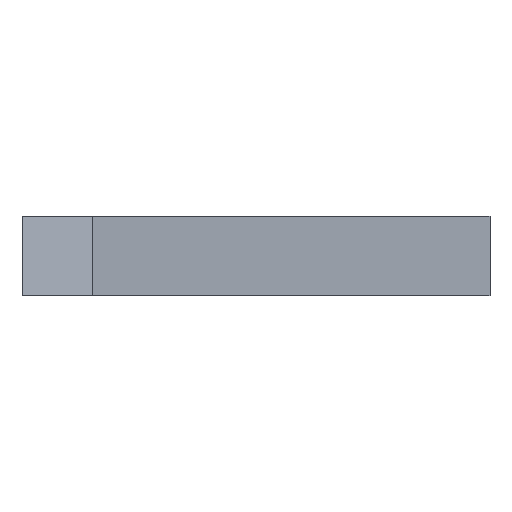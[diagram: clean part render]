
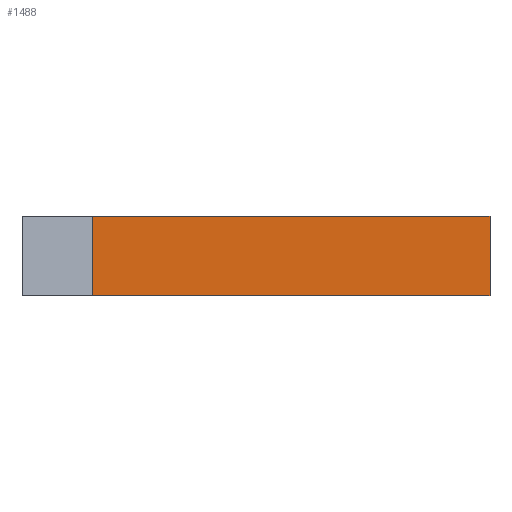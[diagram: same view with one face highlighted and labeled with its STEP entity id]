
A CAD part, front view. The second image highlights one B-rep face of the part: STEP entity #1488.
In plain terms, the highlighted planar face has unit normal (0, -1, 0).
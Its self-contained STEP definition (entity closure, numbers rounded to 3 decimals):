
#31 = EDGE_CURVE ( 'NONE', #262, #48, #563, .T. ) ;
#48 = VERTEX_POINT ( 'NONE', #546 ) ;
#103 = VERTEX_POINT ( 'NONE', #649 ) ;
#108 = EDGE_CURVE ( 'NONE', #256, #103, #647, .T. ) ;
#256 = VERTEX_POINT ( 'NONE', #889 ) ;
#262 = VERTEX_POINT ( 'NONE', #944 ) ;
#264 = EDGE_CURVE ( 'NONE', #256, #262, #943, .T. ) ;
#546 = CARTESIAN_POINT ( 'NONE',  ( 5., -2.5, 0. ) ) ;
#560 = DIRECTION ( 'NONE',  ( 1., 0., 0. ) ) ;
#561 = VECTOR ( 'NONE', #560, 1000. ) ;
#562 = CARTESIAN_POINT ( 'NONE',  ( 5., -2.5, 0. ) ) ;
#563 = LINE ( 'NONE', #562, #561 ) ;
#644 = DIRECTION ( 'NONE',  ( 1., 0., 0. ) ) ;
#645 = VECTOR ( 'NONE', #644, 1000. ) ;
#646 = CARTESIAN_POINT ( 'NONE',  ( 5., -2.5, 2. ) ) ;
#647 = LINE ( 'NONE', #646, #645 ) ;
#649 = CARTESIAN_POINT ( 'NONE',  ( 5., -2.5, 2. ) ) ;
#889 = CARTESIAN_POINT ( 'NONE',  ( -5., -2.5, 2. ) ) ;
#940 = DIRECTION ( 'NONE',  ( 0., 0., -1. ) ) ;
#941 = VECTOR ( 'NONE', #940, 1000. ) ;
#942 = CARTESIAN_POINT ( 'NONE',  ( -5., -2.5, 2. ) ) ;
#943 = LINE ( 'NONE', #942, #941 ) ;
#944 = CARTESIAN_POINT ( 'NONE',  ( -5., -2.5, 0. ) ) ;
#1311 = DIRECTION ( 'NONE',  ( -1., 0., 0. ) ) ;
#1312 = DIRECTION ( 'NONE',  ( 0., 1., 0. ) ) ;
#1313 = AXIS2_PLACEMENT_3D ( 'NONE', #1315, #1312, #1311 ) ;
#1315 = CARTESIAN_POINT ( 'NONE',  ( 5., -2.5, 2. ) ) ;
#1316 = PLANE ( 'NONE',  #1313 ) ;
#1317 = FACE_OUTER_BOUND ( 'NONE', #1486, .T. ) ;
#1318 = DIRECTION ( 'NONE',  ( 0., 0., -1. ) ) ;
#1319 = VECTOR ( 'NONE', #1318, 1000. ) ;
#1320 = CARTESIAN_POINT ( 'NONE',  ( 5., -2.5, 2. ) ) ;
#1321 = LINE ( 'NONE', #1320, #1319 ) ;
#1480 = ORIENTED_EDGE ( 'NONE', *, *, #264, .T. ) ;
#1481 = ORIENTED_EDGE ( 'NONE', *, *, #108, .F. ) ;
#1485 = EDGE_CURVE ( 'NONE', #103, #48, #1321, .T. ) ;
#1486 = EDGE_LOOP ( 'NONE', ( #1487, #1489, #1481, #1480 ) ) ;
#1487 = ORIENTED_EDGE ( 'NONE', *, *, #31, .T. ) ;
#1488 = ADVANCED_FACE ( 'NONE', ( #1317 ), #1316, .F. ) ;
#1489 = ORIENTED_EDGE ( 'NONE', *, *, #1485, .F. ) ;
